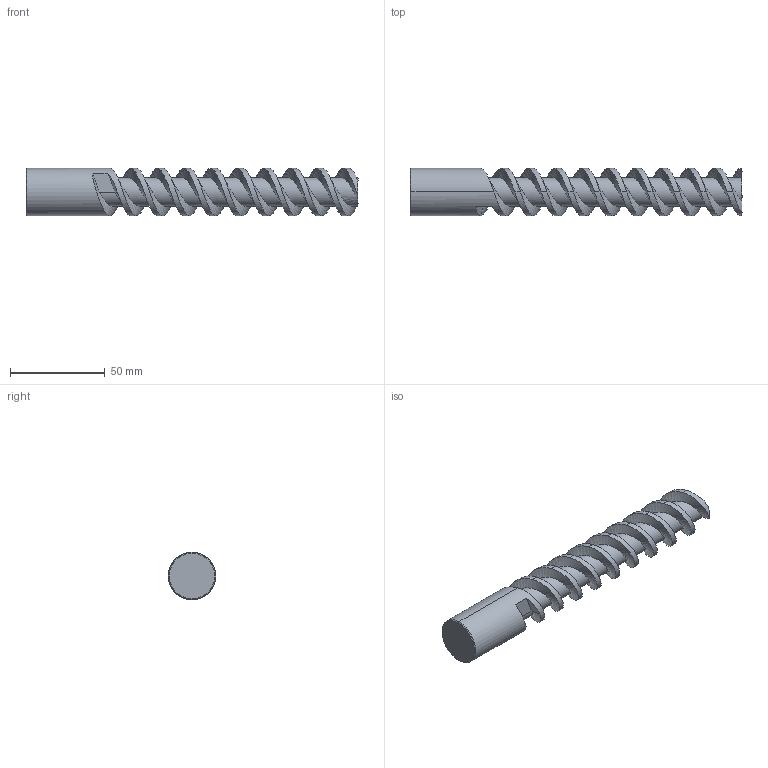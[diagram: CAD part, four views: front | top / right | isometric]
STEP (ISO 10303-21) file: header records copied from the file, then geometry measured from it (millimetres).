
FILE_DESCRIPTION (( 'STEP AP214' ), '1' );
FILE_NAME ('E2122_25_175.STEP', '2013-04-10T07:08:33', ( '' ), ( '' ), 'SwSTEP 2.0', 'SolidWorks 2013', '' );
FILE_SCHEMA (( 'AUTOMOTIVE_DESIGN' ));
Length unit declared in the file: millimetre
Products named in the file (1): E2122_25_175
Bounding box: 175 x 25 x 25 mm (x, y, z)
Volume: 56224.7 mm3; surface area: 16813.3 mm2
Topology: 1 solids, 1 shells, 36 faces, 96 edges, 62 vertices
Faces by surface type: cylinder 20, plane 8, bspline 6, cone 2
Entity records: 8321 total; most frequent: CARTESIAN_POINT 7174, ORIENTED_EDGE 192, DIRECTION 108, EDGE_CURVE 96, VERTEX_POINT 62, UNCERTAINTY_MEASURE_WITH_UNIT 39, STYLED_ITEM 38, PRESENTATION_LAYER_ASSIGNMENT 38
